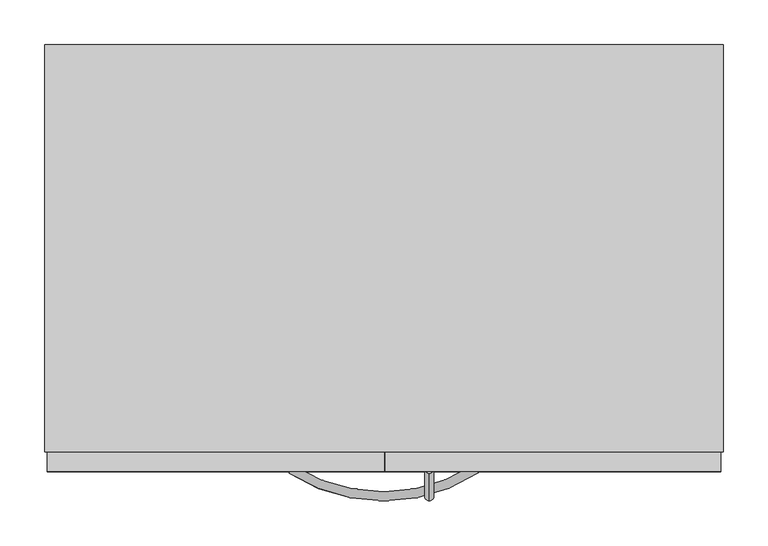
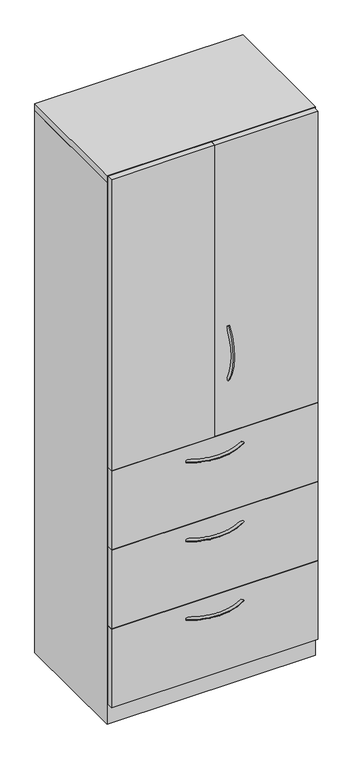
"""IFC4 building model written with IfcOpenShell, lengths in millimetres: furniture geometry, Steelcase - Universal Storage - Cabinet - Combination - Proud Steel : 83 1/2H - Hinged Doors/3 Drawers - 18 7/8D x 30W."""

from ifc_helpers import new_model, si_unit, point, frame, origin, place, context, project, spatial, polyline, circle_curve, ellipse_curve, trimmed, outline, extrude, faceted_brep, source, transform, mapped, element, save
from ifc_brep_helpers import plane_surface, revolved_surface, advanced_brep


def furniture_adabd950(model_context):
    return source(origin(), model_context, "Body", "SolidModel", [
        extrude(outline(polyline([(758.8225413, -479.552), (3.1725353, -479.552), (3.1725353, -457.3261219), (758.8225413, -457.3261219), (758.8225413, -479.552)])), frame((0.0, 0.0, 77.724), z_axis=(0.0, 0.0, 1.0), x_axis=(1.0, 0.0, 0.0)), (0.0, 0.0, 1.0), 303.276),
        extrude(outline(polyline([(758.8225413, -479.552), (3.1725353, -479.552), (3.1725353, -457.3261219), (758.8225413, -457.3261219), (758.8225413, -479.552)])), frame((0.0, 0.0, 382.524), z_axis=(0.0, 0.0, 1.0), x_axis=(1.0, 0.0, 0.0)), (0.0, 0.0, 1.0), 303.276),
        extrude(outline(polyline([(758.8225413, -479.552), (3.1725353, -479.552), (3.1725353, -457.3261219), (758.8225413, -457.3261219), (758.8225413, -479.552)])), frame((0.0, 0.0, 687.3240349), z_axis=(0.0, 0.0, 1.0), x_axis=(1.0, 0.0, 0.0)), (0.0, 0.0, 1.0), 303.2759651),
        extrude(outline(polyline([(381.0, -479.552), (3.1725353, -479.552), (3.1725353, -457.3261219), (381.0, -457.3261219), (381.0, -479.552)])), frame((0.0, 0.0, 992.5062596), z_axis=(0.0, 0.0, 1.0), x_axis=(1.0, 0.0, 0.0)), (0.0, 0.0, 1.0), 1125.22),
        extrude(outline(polyline([(758.8225413, -479.552), (382.5239992, -479.552), (382.5239992, -457.3261219), (758.8225413, -457.3261219), (758.8225413, -479.552)])), frame((0.0, 0.0, 992.5062596), z_axis=(0.0, 0.0, 1.0), x_axis=(1.0, 0.0, 0.0)), (0.0, 0.0, 1.0), 1125.22),
        advanced_brep(
        [(431.7682496, -481.5705994, 1404.643666), (431.7682496, -473.0108019, 1399.1705073), (431.7682496, -481.1337636, 1192.3367456), (431.7682496, -472.5965612, 1197.8450825)],
        [
            (0, 1, circle_curve(frame((431.7682496, -477.2907007, 1401.9070866), z_axis=(0.0, 0.5386967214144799, 0.842499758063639), x_axis=(0.0, 0.842499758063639, -0.5386967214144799)), 5.08)),
            (1, 0, circle_curve(frame((431.7682496, -477.2907007, 1401.9070866), z_axis=(0.0, 0.5386967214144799, 0.842499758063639), x_axis=(0.0, 0.842499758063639, -0.5386967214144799)), 5.08)),
            (2, 3, circle_curve(frame((431.7682496, -476.8651624, 1195.0909141), z_axis=(0.0, 0.5421591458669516, -0.8402758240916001), x_axis=(0.0, 0.8402758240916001, 0.5421591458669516)), 5.08)),
            (3, 2, circle_curve(frame((431.7682496, -476.8651624, 1195.0909141), z_axis=(0.0, 0.5421591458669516, -0.8402758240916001), x_axis=(0.0, 0.8402758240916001, 0.5421591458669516)), 5.08)),
            (3, 1, circle_curve(frame((431.7682496, -316.0827352, 1298.8302589), z_axis=(-1.0, 0.0, 0.0), x_axis=(0.0, -0.8424997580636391, 0.5386967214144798)), 186.2648211)),
            (0, 2, circle_curve(frame((431.7682496, -316.0827352, 1298.8302589), z_axis=(1.0, 0.0, 0.0), x_axis=(0.0, -0.8424997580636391, 0.5386967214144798)), 196.4248211)),
        ],
        [
            plane_surface(frame((432.5619996, -476.6365286, 1401.4888072), z_axis=(0.0, 0.5386967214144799, 0.8424997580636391), x_axis=(1.0, 0.0, 0.0))),
            plane_surface(frame((432.5619996, -476.2127171, 1195.511882), z_axis=(0.0, 0.5421591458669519, -0.8402758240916), x_axis=(1.0, 0.0, 0.0))),
            revolved_surface(trimmed(ellipse_curve(frame((431.7682496, -477.2907007, 1401.9070866), z_axis=(0.0, 0.5386967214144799, 0.842499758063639), x_axis=(0.0, 0.842499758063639, -0.5386967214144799)), 5.08, 5.08), [point((431.7682496, -481.5705994, 1404.643666))], [point((431.7682496, -473.0108019, 1399.1705073))], True, "CARTESIAN"), (432.5619996, -316.0827352, 1298.8302589), (1.0, 0.0, 0.0)),
            revolved_surface(trimmed(ellipse_curve(frame((431.7682496, -477.2907007, 1401.9070866), z_axis=(0.0, 0.5386967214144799, 0.842499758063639), x_axis=(0.0, 0.842499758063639, -0.5386967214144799)), 5.08, 5.08), [point((431.7682496, -473.0108019, 1399.1705073))], [point((431.7682496, -481.5705994, 1404.643666))], True, "CARTESIAN"), (432.5619996, -316.0827352, 1298.8302589), (1.0, 0.0, 0.0)),
        ],
        [
            (0, [[1, 2]]),
            (1, [[3, 4]]),
            (2, [[5, -1, 6, -4]]),
            (3, [[-6, -2, -5, -3]]),
        ],
    ),
        advanced_brep(
        [(274.4245932, -481.5705994, 323.56425), (279.8977519, -473.0108019, 323.56425), (486.7315136, -481.1337636, 323.56425), (481.2231767, -472.5965612, 323.56425)],
        [
            (0, 1, circle_curve(frame((277.1611726, -477.2907007, 323.56425), z_axis=(-0.8424997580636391, 0.5386967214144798, 0.0), x_axis=(0.5386967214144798, 0.8424997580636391, 0.0)), 5.08)),
            (1, 0, circle_curve(frame((277.1611726, -477.2907007, 323.56425), z_axis=(-0.8424997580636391, 0.5386967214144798, 0.0), x_axis=(0.5386967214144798, 0.8424997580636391, 0.0)), 5.08)),
            (2, 3, circle_curve(frame((483.9773452, -476.8651624, 323.56425), z_axis=(0.8402758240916, 0.5421591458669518, 0.0), x_axis=(-0.5421591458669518, 0.8402758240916, 0.0)), 5.08)),
            (3, 2, circle_curve(frame((483.9773452, -476.8651624, 323.56425), z_axis=(0.8402758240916, 0.5421591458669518, 0.0), x_axis=(-0.5421591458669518, 0.8402758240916, 0.0)), 5.08)),
            (3, 1, circle_curve(frame((380.2380004, -316.0827352, 323.56425), z_axis=(0.0, 0.0, -1.0), x_axis=(-0.5386967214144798, -0.8424997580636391, 0.0)), 186.2648211)),
            (0, 2, circle_curve(frame((380.2380004, -316.0827352, 323.56425), z_axis=(0.0, 0.0, 1.0), x_axis=(-0.5386967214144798, -0.8424997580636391, 0.0)), 196.4248211)),
        ],
        [
            plane_surface(frame((277.5794521, -476.6365286, 324.358), z_axis=(-0.8424997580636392, 0.5386967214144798, 0.0), x_axis=(0.0, 0.0, 1.0))),
            plane_surface(frame((483.5563772, -476.2127171, 324.358), z_axis=(0.8402758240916, 0.5421591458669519, 0.0), x_axis=(0.0, 0.0, 1.0))),
            revolved_surface(trimmed(ellipse_curve(frame((277.1611726, -477.2907007, 323.56425), z_axis=(-0.8424997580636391, 0.5386967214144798, 0.0), x_axis=(0.5386967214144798, 0.8424997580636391, 0.0)), 5.08, 5.08), [point((274.4245932, -481.5705994, 323.56425))], [point((279.8977519, -473.0108019, 323.56425))], True, "CARTESIAN"), (380.2380004, -316.0827352, 324.358), (0.0, 0.0, 1.0)),
            revolved_surface(trimmed(ellipse_curve(frame((277.1611726, -477.2907007, 323.56425), z_axis=(-0.8424997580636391, 0.5386967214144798, 0.0), x_axis=(0.5386967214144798, 0.8424997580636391, 0.0)), 5.08, 5.08), [point((279.8977519, -473.0108019, 323.56425))], [point((274.4245932, -481.5705994, 323.56425))], True, "CARTESIAN"), (380.2380004, -316.0827352, 324.358), (0.0, 0.0, 1.0)),
        ],
        [
            (0, [[1, 2]]),
            (1, [[3, 4]]),
            (2, [[5, -1, 6, -4]]),
            (3, [[-6, -2, -5, -3]]),
        ],
    ),
        advanced_brep(
        [(274.4245932, -481.5705994, 627.85625), (279.8977519, -473.0108019, 627.85625), (486.7315136, -481.1337636, 627.85625), (481.2231767, -472.5965612, 627.85625)],
        [
            (0, 1, circle_curve(frame((277.1611726, -477.2907007, 627.85625), z_axis=(-0.8424997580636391, 0.5386967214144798, 0.0), x_axis=(0.5386967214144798, 0.8424997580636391, 0.0)), 5.08)),
            (1, 0, circle_curve(frame((277.1611726, -477.2907007, 627.85625), z_axis=(-0.8424997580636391, 0.5386967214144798, 0.0), x_axis=(0.5386967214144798, 0.8424997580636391, 0.0)), 5.08)),
            (2, 3, circle_curve(frame((483.9773452, -476.8651624, 627.85625), z_axis=(0.8402758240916, 0.5421591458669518, 0.0), x_axis=(-0.5421591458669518, 0.8402758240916, 0.0)), 5.08)),
            (3, 2, circle_curve(frame((483.9773452, -476.8651624, 627.85625), z_axis=(0.8402758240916, 0.5421591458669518, 0.0), x_axis=(-0.5421591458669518, 0.8402758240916, 0.0)), 5.08)),
            (3, 1, circle_curve(frame((380.2380004, -316.0827352, 627.85625), z_axis=(0.0, 0.0, -1.0), x_axis=(-0.5386967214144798, -0.8424997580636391, 0.0)), 186.2648211)),
            (0, 2, circle_curve(frame((380.2380004, -316.0827352, 627.85625), z_axis=(0.0, 0.0, 1.0), x_axis=(-0.5386967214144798, -0.8424997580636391, 0.0)), 196.4248211)),
        ],
        [
            plane_surface(frame((277.5794521, -476.6365286, 628.65), z_axis=(-0.8424997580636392, 0.5386967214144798, 0.0), x_axis=(0.0, 0.0, 1.0))),
            plane_surface(frame((483.5563772, -476.2127171, 628.65), z_axis=(0.8402758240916, 0.5421591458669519, 0.0), x_axis=(0.0, 0.0, 1.0))),
            revolved_surface(trimmed(ellipse_curve(frame((277.1611726, -477.2907007, 627.85625), z_axis=(-0.8424997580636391, 0.5386967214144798, 0.0), x_axis=(0.5386967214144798, 0.8424997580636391, 0.0)), 5.08, 5.08), [point((274.4245932, -481.5705994, 627.85625))], [point((279.8977519, -473.0108019, 627.85625))], True, "CARTESIAN"), (380.2380004, -316.0827352, 628.65), (0.0, 0.0, 1.0)),
            revolved_surface(trimmed(ellipse_curve(frame((277.1611726, -477.2907007, 627.85625), z_axis=(-0.8424997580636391, 0.5386967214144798, 0.0), x_axis=(0.5386967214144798, 0.8424997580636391, 0.0)), 5.08, 5.08), [point((279.8977519, -473.0108019, 627.85625))], [point((274.4245932, -481.5705994, 627.85625))], True, "CARTESIAN"), (380.2380004, -316.0827352, 628.65), (0.0, 0.0, 1.0)),
        ],
        [
            (0, [[1, 2]]),
            (1, [[3, 4]]),
            (2, [[5, -1, 6, -4]]),
            (3, [[-6, -2, -5, -3]]),
        ],
    ),
        advanced_brep(
        [(274.4245932, -481.5705994, 932.65625), (279.8977519, -473.0108019, 932.65625), (486.7315136, -481.1337636, 932.65625), (481.2231767, -472.5965612, 932.65625)],
        [
            (0, 1, circle_curve(frame((277.1611726, -477.2907007, 932.65625), z_axis=(-0.8424997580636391, 0.5386967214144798, 0.0), x_axis=(0.5386967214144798, 0.8424997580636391, 0.0)), 5.08)),
            (1, 0, circle_curve(frame((277.1611726, -477.2907007, 932.65625), z_axis=(-0.8424997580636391, 0.5386967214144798, 0.0), x_axis=(0.5386967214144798, 0.8424997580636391, 0.0)), 5.08)),
            (2, 3, circle_curve(frame((483.9773452, -476.8651624, 932.65625), z_axis=(0.8402758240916, 0.5421591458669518, 0.0), x_axis=(-0.5421591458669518, 0.8402758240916, 0.0)), 5.08)),
            (3, 2, circle_curve(frame((483.9773452, -476.8651624, 932.65625), z_axis=(0.8402758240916, 0.5421591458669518, 0.0), x_axis=(-0.5421591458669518, 0.8402758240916, 0.0)), 5.08)),
            (3, 1, circle_curve(frame((380.2380004, -316.0827352, 932.65625), z_axis=(0.0, 0.0, -1.0), x_axis=(-0.5386967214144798, -0.8424997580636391, 0.0)), 186.2648211)),
            (0, 2, circle_curve(frame((380.2380004, -316.0827352, 932.65625), z_axis=(0.0, 0.0, 1.0), x_axis=(-0.5386967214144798, -0.8424997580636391, 0.0)), 196.4248211)),
        ],
        [
            plane_surface(frame((277.5794521, -476.6365286, 933.45), z_axis=(-0.8424997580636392, 0.5386967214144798, 0.0), x_axis=(0.0, 0.0, 1.0))),
            plane_surface(frame((483.5563772, -476.2127171, 933.45), z_axis=(0.8402758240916, 0.5421591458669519, 0.0), x_axis=(0.0, 0.0, 1.0))),
            revolved_surface(trimmed(ellipse_curve(frame((277.1611726, -477.2907007, 932.65625), z_axis=(-0.8424997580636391, 0.5386967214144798, 0.0), x_axis=(0.5386967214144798, 0.8424997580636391, 0.0)), 5.08, 5.08), [point((274.4245932, -481.5705994, 932.65625))], [point((279.8977519, -473.0108019, 932.65625))], True, "CARTESIAN"), (380.2380004, -316.0827352, 933.45), (0.0, 0.0, 1.0)),
            revolved_surface(trimmed(ellipse_curve(frame((277.1611726, -477.2907007, 932.65625), z_axis=(-0.8424997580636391, 0.5386967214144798, 0.0), x_axis=(0.5386967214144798, 0.8424997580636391, 0.0)), 5.08, 5.08), [point((279.8977519, -473.0108019, 932.65625))], [point((274.4245932, -481.5705994, 932.65625))], True, "CARTESIAN"), (380.2380004, -316.0827352, 933.45), (0.0, 0.0, 1.0)),
        ],
        [
            (0, [[1, 2]]),
            (1, [[3, 4]]),
            (2, [[5, -1, 6, -4]]),
            (3, [[-6, -2, -5, -3]]),
        ],
    ),
        faceted_brep([(25.4000008, -457.3261219, 76.2), (736.6000242, -457.3261219, 76.2), (736.6000242, -25.4000008, 76.2), (25.4000008, -25.4000008, 76.2), (762.0, 0.0, 0.0), (762.0, -457.3261219, 0.0), (0.0, -457.3261219, 0.0), (0.0, 0.0, 0.0), (0.0, 0.0, 2093.976), (762.0, 0.0, 2093.976), (0.0, -457.3261219, 2093.976), (762.0, -457.3261219, 2093.976), (736.6000242, -457.3261219, 2093.976), (25.4000008, -457.3261219, 2093.976), (736.6000242, -25.4000008, 2093.976), (25.4000008, -25.4000008, 2093.976)], [[[0, 1, 2, 3]], [[4, 5, 6, 7]], [[4, 7, 8, 9]], [[8, 7, 6, 10]], [[10, 6, 5, 11, 12, 1, 0, 13]], [[11, 5, 4, 9]], [[14, 12, 11, 9, 8, 10, 13, 15]], [[12, 14, 2, 1]], [[15, 13, 0, 3]], [[14, 15, 3, 2]]]),
        extrude(outline(polyline([(762.0, 0.0), (762.0, -457.3261219), (0.0, -457.3261219), (0.0, 0.0), (762.0, 0.0)])), frame((0.0, 0.0, 2095.4999516), z_axis=(0.0, 0.0, 1.0), x_axis=(1.0, 0.0, 0.0)), (0.0, 0.0, 1.0), 25.4000484),
    ])


if __name__ == "__main__":
    model = new_model("IFC4")
    model_context = context("Model", 3, world=origin())
    ifc_project = project(units=[si_unit("LENGTHUNIT", "METRE", prefix="MILLI")], contexts=[model_context])
    site = spatial("IfcSite", under=ifc_project)
    building = spatial("IfcBuilding", under=site)
    placement = place(None, origin())
    furniture_shape = furniture_adabd950(model_context)
    element("IfcFurniture", 1, ObjectType="Steelcase - Universal Storage - Cabinet - Combination - Proud Steel : 83 1/2H - Hinged Doors/3 Drawers - 18 7/8D x 30W", at=placement, inside=building, context=model_context, shape_type="MappedRepresentation", body=[
        mapped(furniture_shape, transform((0.0, 0.0, 0.0), x_axis=(1.0, 0.0, 0.0), y_axis=(0.0, 1.0, 0.0), z_axis=(0.0, 0.0, 1.0))),
    ])
    save(model, "model.ifc")
